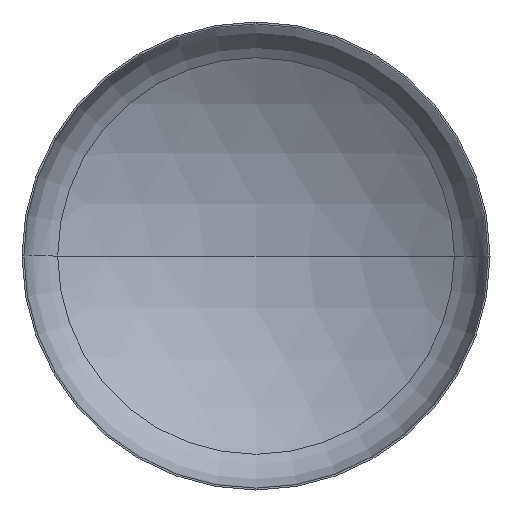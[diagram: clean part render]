
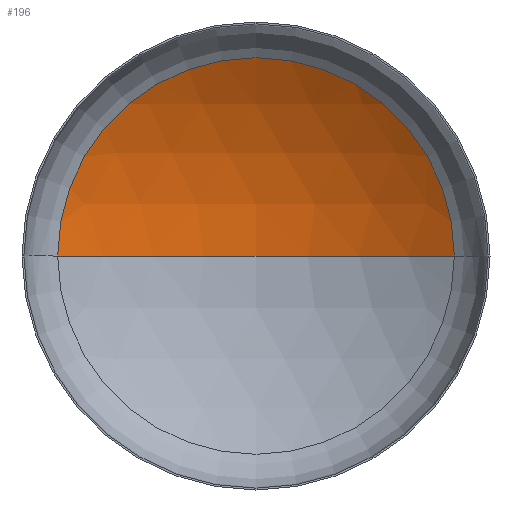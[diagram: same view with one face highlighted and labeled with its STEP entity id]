
A CAD part, front view. The second image highlights one B-rep face of the part: STEP entity #196.
In plain terms, the highlighted spherical face has radius 3200 mm.
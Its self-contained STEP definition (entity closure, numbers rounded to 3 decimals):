
#10 = EDGE_LOOP ( 'NONE', ( #214, #78, #289 ) ) ;
#48 = VERTEX_POINT ( 'NONE', #225 ) ;
#54 = VERTEX_POINT ( 'NONE', #321 ) ;
#62 = VERTEX_POINT ( 'NONE', #319 ) ;
#78 = ORIENTED_EDGE ( 'NONE', *, *, #273, .T. ) ;
#83 = CARTESIAN_POINT ( 'NONE',  ( 0., -2137.73, 0. ) ) ;
#88 = DIRECTION ( 'NONE',  ( 0., 0., -1. ) ) ;
#95 = DIRECTION ( 'NONE',  ( -1., 0., 0. ) ) ;
#135 = AXIS2_PLACEMENT_3D ( 'NONE', #83, #88, #95 ) ;
#153 = CIRCLE ( 'NONE', #174, 3200. ) ;
#158 = CARTESIAN_POINT ( 'NONE',  ( 0., -2137.73, 0. ) ) ;
#174 = AXIS2_PLACEMENT_3D ( 'NONE', #390, #234, #410 ) ;
#175 = DIRECTION ( 'NONE',  ( 0., 0., -1. ) ) ;
#196 = ADVANCED_FACE ( 'NONE', ( #324 ), #317, .F. ) ;
#214 = ORIENTED_EDGE ( 'NONE', *, *, #298, .F. ) ;
#225 = CARTESIAN_POINT ( 'NONE',  ( 1694.7, 576.675, 0. ) ) ;
#234 = DIRECTION ( 'NONE',  ( 0., 0., 1. ) ) ;
#240 = EDGE_CURVE ( 'NONE', #48, #62, #380, .T. ) ;
#254 = DIRECTION ( 'NONE',  ( 1., 0., 0. ) ) ;
#262 = DIRECTION ( 'NONE',  ( 0., -1., 0. ) ) ;
#263 = CARTESIAN_POINT ( 'NONE',  ( 0., 576.675, 0. ) ) ;
#273 = EDGE_CURVE ( 'NONE', #54, #48, #361, .T. ) ;
#289 = ORIENTED_EDGE ( 'NONE', *, *, #240, .T. ) ;
#298 = EDGE_CURVE ( 'NONE', #54, #62, #153, .T. ) ;
#311 = DIRECTION ( 'NONE',  ( -1., 0., 0. ) ) ;
#317 = SPHERICAL_SURFACE ( 'NONE', #346, 3200. ) ;
#319 = CARTESIAN_POINT ( 'NONE',  ( -1694.7, 576.675, 0. ) ) ;
#321 = CARTESIAN_POINT ( 'NONE',  ( 0., 1062.27, 0. ) ) ;
#324 = FACE_OUTER_BOUND ( 'NONE', #10, .T. ) ;
#346 = AXIS2_PLACEMENT_3D ( 'NONE', #158, #175, #311 ) ;
#361 = CIRCLE ( 'NONE', #135, 3200. ) ;
#380 = CIRCLE ( 'NONE', #391, 1694.7 ) ;
#390 = CARTESIAN_POINT ( 'NONE',  ( 0., -2137.73, 0. ) ) ;
#391 = AXIS2_PLACEMENT_3D ( 'NONE', #263, #262, #254 ) ;
#410 = DIRECTION ( 'NONE',  ( 1., 0., 0. ) ) ;
